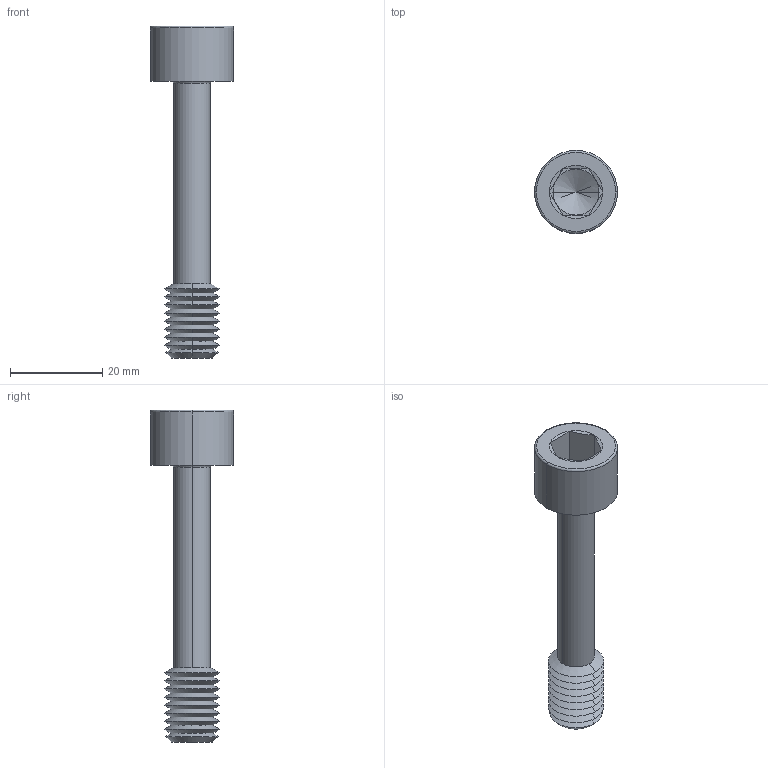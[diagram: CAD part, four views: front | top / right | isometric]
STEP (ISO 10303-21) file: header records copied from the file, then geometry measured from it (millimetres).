
FILE_DESCRIPTION (( 'STEP AP203' ), '1' );
FILE_NAME ('P0154.120-060-BL.step', '2024-06-17T11:37:12', ( '' ), ( '' ), 'SwSTEP 2.0', 'SolidWorks 2019', '' );
FILE_SCHEMA (( 'CONFIG_CONTROL_DESIGN' ));
Length unit declared in the file: millimetre
Products named in the file (1): P0154.120-060-BL
Bounding box: 18 x 18 x 72 mm (x, y, z)
Volume: 5699 mm3; surface area: 3676.7 mm2
Topology: 1 solids, 1 shells, 67 faces, 136 edges, 71 vertices
Faces by surface type: cone 44, plane 15, torus 4, cylinder 4
Entity records: 1791 total; most frequent: DIRECTION 332, CARTESIAN_POINT 303, ORIENTED_EDGE 268, AXIS2_PLACEMENT_3D 136, EDGE_CURVE 134, VERTEX_POINT 71, EDGE_LOOP 69, CIRCLE 68
